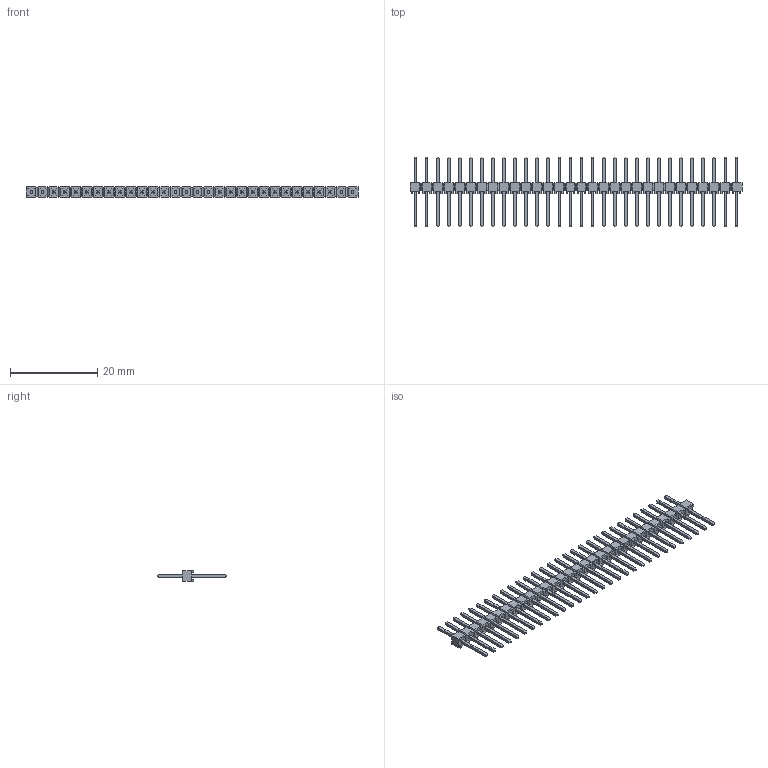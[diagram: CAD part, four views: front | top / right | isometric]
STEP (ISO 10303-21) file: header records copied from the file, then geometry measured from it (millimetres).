
FILE_DESCRIPTION(('FreeCAD Model'),'2;1');
FILE_NAME( '/home/kennell/dev/kicad/stm32f091-4layer/models/HTSW-130-22-T-S.stp', '2020-06-21T21:45:06',('Author'),(''), 'Open CASCADE STEP processor 6.9','FreeCAD','Unknown');
FILE_SCHEMA(('AUTOMOTIVE_DESIGN { 1 0 10303 214 1 1 1 1 }'));
Length unit declared in the file: millimetre
Products named in the file (3): ASSEMBLY; _HTSW-130-22-T-S_body; _T-1S6-15-HTSW-1--22-30-S
Assembly tree (2 placements, depth 2):
  ASSEMBLY
    _HTSW-130-22-T-S_body
    _T-1S6-15-HTSW-1--22-30-S
Bounding box: 76.2 x 16 x 2.49 mm (x, y, z)
Volume: 549.7 mm3; surface area: 2303.5 mm2
Topology: 2 solids, 2 shells, 1558 faces, 3894 edges, 2400 vertices
Faces by surface type: plane 1558
Entity records: 95462 total; most frequent: CARTESIAN_POINT 15643, DIRECTION 14804, LINE 11682, VECTOR 11682, ORIENTED_EDGE 7788, PCURVE 7788, DEFINITIONAL_REPRESENTATION 7788, EDGE_CURVE 3894
